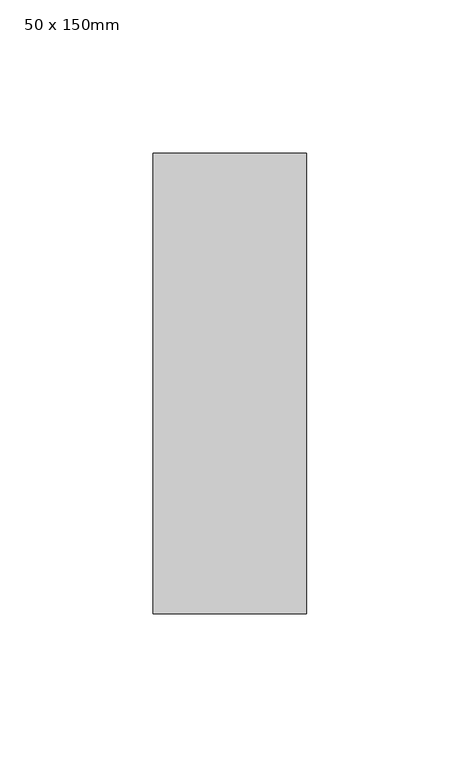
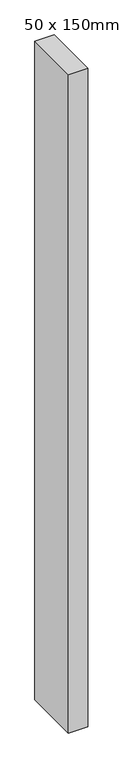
"""IFC4 building model written with IfcOpenShell, lengths in millimetres: member geometry, 矩形竖梃 : 50 x 150mm."""

from ifc_helpers import new_model, si_unit, frame, origin, place, context, project, spatial, polyline, outline, extrude, source, transform, mapped, element, save


def member_50_x_150mm_083f1865(model_context):
    return source(origin(), model_context, "Body", "SweptSolid", [
        extrude(outline(polyline([(25.0, 75.0), (25.0, -75.0), (-25.0, -75.0), (-25.0, 75.0), (25.0, 75.0)])), frame((0.0, 0.0, -1800.0), z_axis=(0.0, 0.0, 1.0), x_axis=(1.0, 0.0, 0.0)), (0.0, 0.0, 1.0), 1800.0),
    ])


if __name__ == "__main__":
    model = new_model("IFC4")
    model_context = context("Model", 3, world=origin())
    ifc_project = project(units=[si_unit("LENGTHUNIT", "METRE", prefix="MILLI")], contexts=[model_context])
    site = spatial("IfcSite", under=ifc_project)
    building = spatial("IfcBuilding", under=site)
    placement = place(None, origin())
    member_50_x_150mm_shape = member_50_x_150mm_083f1865(model_context)
    element("IfcMember", 1, ObjectType="矩形竖梃 : 50 x 150mm", at=placement, inside=building, context=model_context, shape_type="MappedRepresentation", body=[
        mapped(member_50_x_150mm_shape, transform((0.0, 0.0, 0.0), x_axis=(1.0, 0.0, 0.0), y_axis=(0.0, 1.0, 0.0), z_axis=(0.0, 0.0, 1.0))),
    ])
    save(model, "model.ifc")
